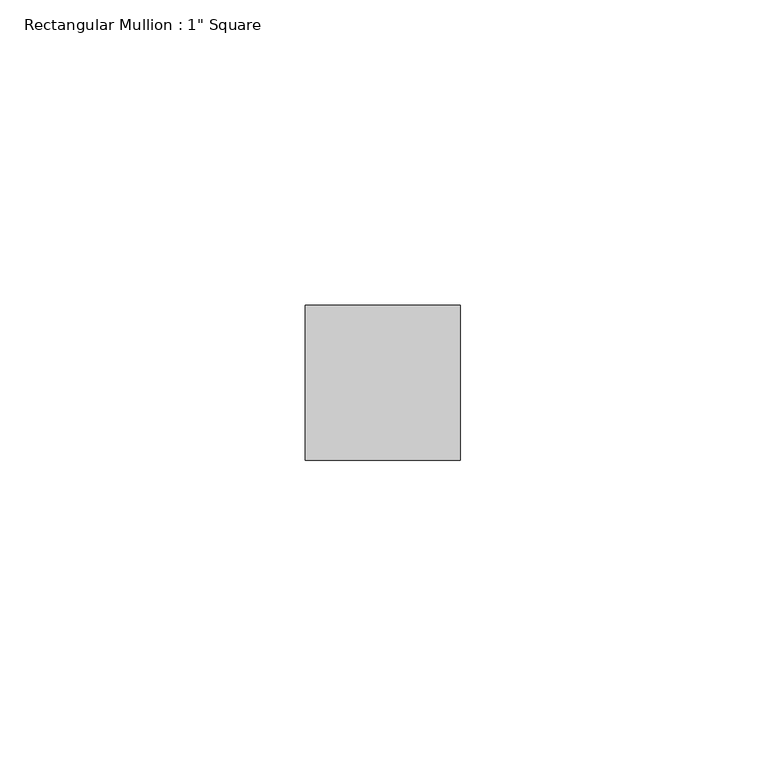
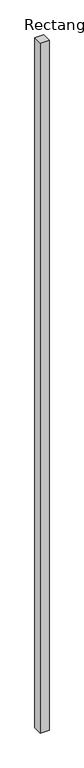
"""IFC4 building model written with IfcOpenShell, lengths in millimetres: member geometry."""

from ifc_helpers import new_model, si_unit, frame, origin, place, context, project, spatial, polyline, outline, extrude, source, transform, mapped, element, save


def member_231912ba(model_context):
    return source(origin(), model_context, "Body", "SweptSolid", [
        extrude(outline(polyline([(0.0, 12.7), (0.0, -12.7), (-25.4, -12.7), (-25.4, 12.7), (0.0, 12.7)])), frame((0.0, 0.0, -2061.1163603), z_axis=(0.0, 0.0, 1.0), x_axis=(1.0, 0.0, 0.0)), (0.0, 0.0, 1.0), 2061.1163603),
    ])


if __name__ == "__main__":
    model = new_model("IFC4")
    model_context = context("Model", 3, world=origin())
    ifc_project = project(units=[si_unit("LENGTHUNIT", "METRE", prefix="MILLI")], contexts=[model_context])
    site = spatial("IfcSite", under=ifc_project)
    building = spatial("IfcBuilding", under=site)
    placement = place(None, origin())
    member_shape = member_231912ba(model_context)
    element("IfcMember", 1, ObjectType="Rectangular Mullion : 1\" Square", at=placement, inside=building, context=model_context, shape_type="MappedRepresentation", body=[
        mapped(member_shape, transform((0.0, 0.0, 0.0), x_axis=(1.0, 0.0, 0.0), y_axis=(0.0, 1.0, 0.0), z_axis=(0.0, 0.0, 1.0))),
    ])
    save(model, "model.ifc")
